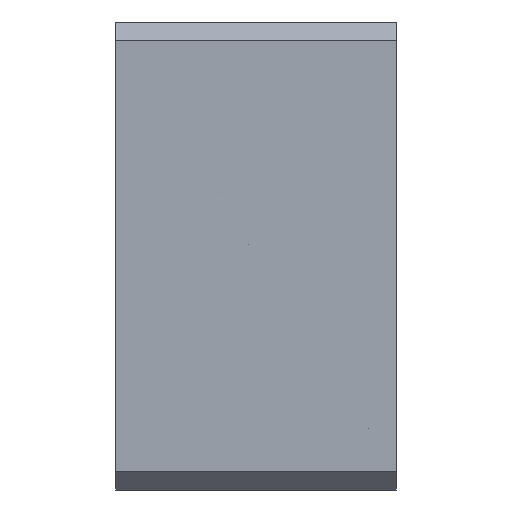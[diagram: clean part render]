
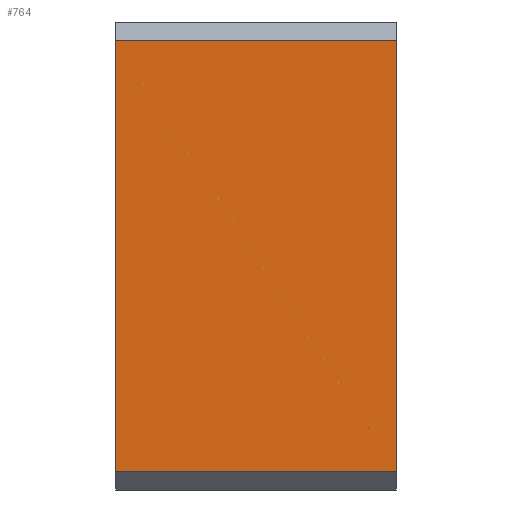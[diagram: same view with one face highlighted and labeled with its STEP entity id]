
A CAD part, left-side view. The second image highlights one B-rep face of the part: STEP entity #764.
In plain terms, the highlighted planar face has unit normal (-1, 0, 0).
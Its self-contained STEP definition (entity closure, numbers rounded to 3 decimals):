
#5=DIRECTION('',(0.,0.,1.));
#6=VECTOR('',#5,46.);
#7=CARTESIAN_POINT('',(-40.,-15.,-23.));
#8=LINE('',#7,#6);
#115=DIRECTION('',(0.,-1.,0.));
#116=VECTOR('',#115,30.);
#117=CARTESIAN_POINT('',(-40.,15.,-23.));
#118=LINE('',#117,#116);
#119=DIRECTION('',(0.,-1.,0.));
#120=VECTOR('',#119,30.);
#121=CARTESIAN_POINT('',(-40.,15.,23.));
#122=LINE('',#121,#120);
#151=DIRECTION('',(0.,0.,1.));
#152=VECTOR('',#151,46.);
#153=CARTESIAN_POINT('',(-40.,15.,-23.));
#154=LINE('',#153,#152);
#461=CARTESIAN_POINT('',(-40.,-15.,-23.));
#463=VERTEX_POINT('',#461);
#467=CARTESIAN_POINT('',(-40.,15.,-23.));
#468=VERTEX_POINT('',#467);
#470=CARTESIAN_POINT('',(-40.,-15.,23.));
#472=VERTEX_POINT('',#470);
#473=CARTESIAN_POINT('',(-40.,15.,23.));
#474=VERTEX_POINT('',#473);
#752=CARTESIAN_POINT('',(-40.,-15.,-25.));
#753=DIRECTION('',(-1.,0.,0.));
#754=DIRECTION('',(0.,0.,1.));
#755=AXIS2_PLACEMENT_3D('',#752,#753,#754);
#756=PLANE('',#755);
#757=ORIENTED_EDGE('',*,*,#663,.F.);
#759=ORIENTED_EDGE('',*,*,#758,.T.);
#760=ORIENTED_EDGE('',*,*,#744,.T.);
#761=ORIENTED_EDGE('',*,*,#602,.F.);
#762=EDGE_LOOP('',(#757,#759,#760,#761));
#763=FACE_OUTER_BOUND('',#762,.F.);
#764=ADVANCED_FACE('',(#763),#756,.T.);
#602=EDGE_CURVE('',#463,#472,#8,.T.);
#663=EDGE_CURVE('',#468,#463,#118,.T.);
#744=EDGE_CURVE('',#474,#472,#122,.T.);
#758=EDGE_CURVE('',#468,#474,#154,.T.);
